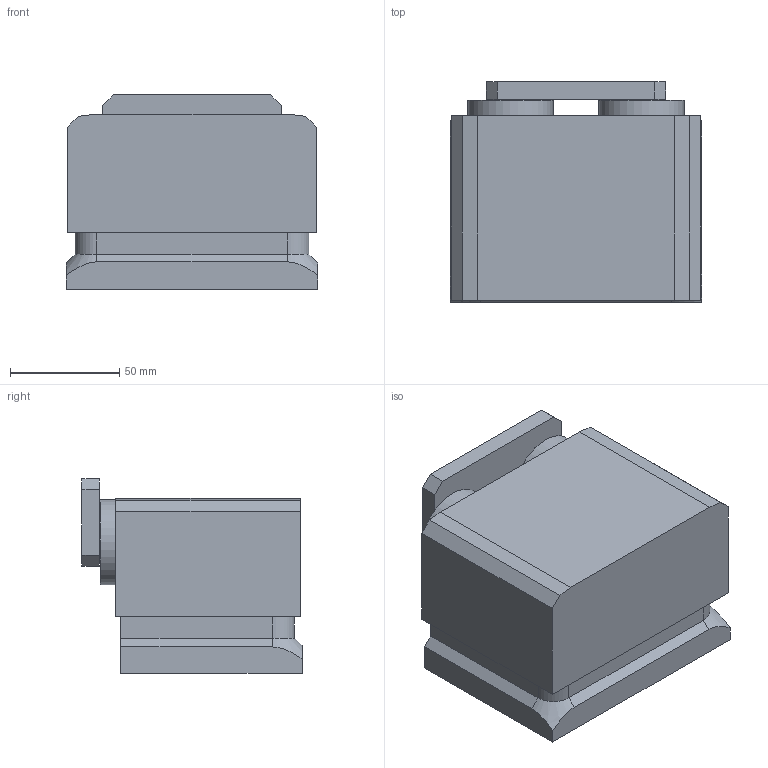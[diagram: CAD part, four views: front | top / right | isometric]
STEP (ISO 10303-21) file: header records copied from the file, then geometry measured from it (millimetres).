
FILE_DESCRIPTION(/* description */ ('Stopper SD-260-EW-09-E'),/* implementation_level */ '2;1');
FILE_NAME(/* name */ 'C:\Marketing\01_Versamove-SPU_STEP-Dateien-Homepage\Versamove plus\Stopper\T-ENG556633.stp',/* time_stamp */ '2017-02-01T13:26:03+01:00',/* author */ ('herbert.engels'),/* organization */ (''),/* preprocessor_version */ 'ST-DEVELOPER v15.6',/* originating_system */ 'Autodesk Inventor 2015',/* authorisation */ '');
FILE_SCHEMA (('CONFIG_CONTROL_DESIGN'));
Length unit declared in the file: millimetre
Products named in the file (1): T-ENG556633
Bounding box: 115 x 100.8 x 89 mm (x, y, z)
Volume: 697031.2 mm3; surface area: 88114.9 mm2
Topology: 2 solids, 6 shells, 95 faces, 225 edges, 149 vertices
Faces by surface type: plane 61, cylinder 28, cone 6
Full cylindrical faces by diameter (mm): 3.4 x1, 8.5 x4, 8.7 x1, 16 x2, 20 x1, 20.2 x1, 39 x2
Entity records: 2914 total; most frequent: CARTESIAN_POINT 671, DIRECTION 424, ORIENTED_EDGE 406, EDGE_CURVE 203, LINE 156, VECTOR 156, VERTEX_POINT 143, AXIS2_PLACEMENT_3D 134
